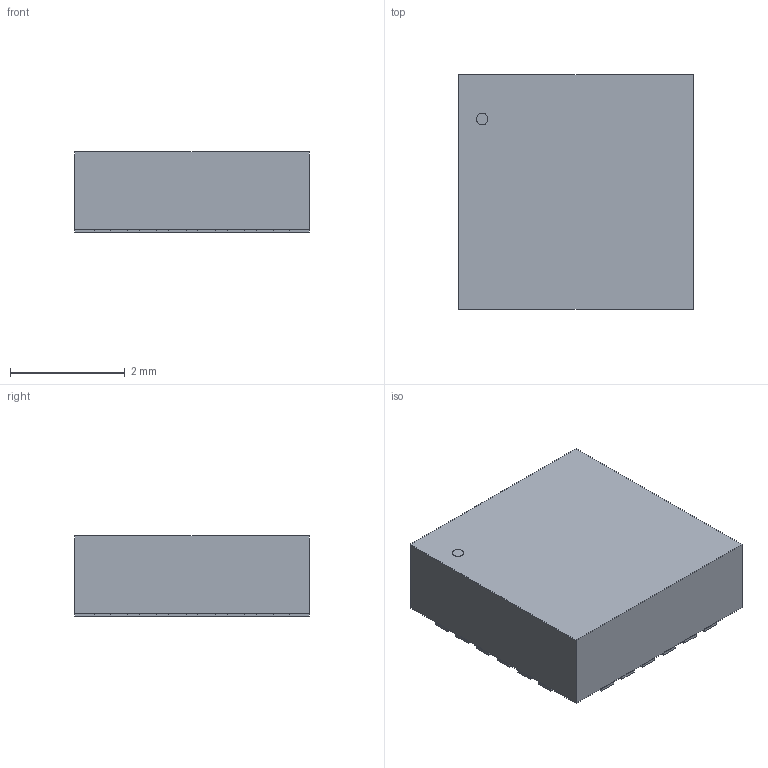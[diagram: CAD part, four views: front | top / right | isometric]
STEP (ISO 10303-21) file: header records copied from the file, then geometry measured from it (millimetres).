
FILE_DESCRIPTION(('STEP AP214'),'1');
FILE_NAME('SQFN24_4X4MC-L','2020-03-28T05:24:34',(''),(''),'','','');
FILE_SCHEMA(('AUTOMOTIVE_DESIGN'));
Length unit declared in the file: millimetre
Products named in the file (1): product
Bounding box: 4.09 x 4.09 x 1.4 mm (x, y, z)
Volume: 23.3 mm3; surface area: 88.8 mm2
Topology: 27 solids, 27 shells, 159 faces, 315 edges, 210 vertices
Faces by surface type: plane 158, cylinder 1
Full cylindrical faces by diameter (mm): 0.204 x1
Entity records: 3856 total; most frequent: DIRECTION 638, ORIENTED_EDGE 628, CARTESIAN_POINT 373, EDGE_CURVE 314, LINE 312, VECTOR 312, VERTEX_POINT 210, AXIS2_PLACEMENT_3D 163
